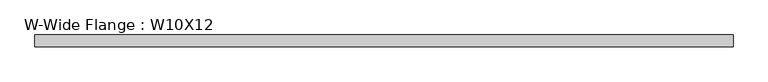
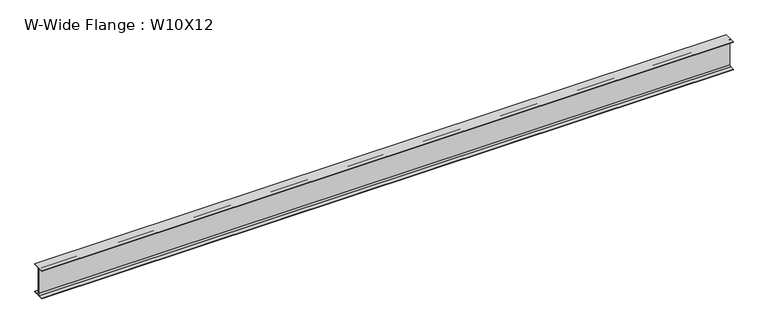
"""IFC4 building model written with IfcOpenShell, lengths in millimetres: beam geometry, W-Wide Flange : W10X12."""

from ifc_helpers import new_model, si_unit, point, frame, frame_2d, origin, place, context, project, spatial, polyline, circle_curve, trimmed, segment, composite_curve, outline, extrude, source, transform, mapped, element, save


def w_wide_flange_w10x12_c24cad00(model_context):
    return source(origin(), model_context, "Body", "SweptSolid", [
        extrude(outline(composite_curve([segment(polyline([(50.292, -120.015), (50.292, -125.349), (-50.292, -125.349), (-50.292, -120.015), (-16.129, -120.015)]), True, "CONTINUOUS"), segment(trimmed(circle_curve(frame_2d((-16.129, -106.299)), 13.716), [point((-16.129, -120.015))], [point((-2.413, -106.299))], True, "CARTESIAN"), True, "CONTINUOUS"), segment(polyline([(-2.413, -106.299), (-2.413, 106.299)]), True, "CONTINUOUS"), segment(trimmed(circle_curve(frame_2d((-16.129, 106.299)), 13.716), [point((-2.413, 106.299))], [point((-16.129, 120.015))], True, "CARTESIAN"), True, "CONTINUOUS"), segment(polyline([(-16.129, 120.015), (-50.292, 120.015), (-50.292, 125.349), (50.292, 125.349), (50.292, 120.015), (16.129, 120.015)]), True, "CONTINUOUS"), segment(trimmed(circle_curve(frame_2d((16.129, 106.299)), 13.716), [point((16.129, 120.015))], [point((2.413, 106.299))], True, "CARTESIAN"), True, "CONTINUOUS"), segment(polyline([(2.413, 106.299), (2.413, -106.299)]), True, "CONTINUOUS"), segment(trimmed(circle_curve(frame_2d((16.129, -106.299)), 13.716), [point((2.413, -106.299))], [point((16.129, -120.015))], True, "CARTESIAN"), True, "CONTINUOUS"), segment(polyline([(16.129, -120.015), (50.292, -120.015)]), True, "CONTINUOUS")], self_intersect=False)), frame((-2786.85625, 0.0, 0.0), z_axis=(1.0, 0.0, 0.0), x_axis=(0.0, 1.0, 0.0)), (0.0, 0.0, 1.0), 5821.3625),
    ])


if __name__ == "__main__":
    model = new_model("IFC4")
    model_context = context("Model", 3, world=origin())
    ifc_project = project(units=[si_unit("LENGTHUNIT", "METRE", prefix="MILLI")], contexts=[model_context])
    site = spatial("IfcSite", under=ifc_project)
    building = spatial("IfcBuilding", under=site)
    placement = place(None, origin())
    w_wide_flange_w10x12_shape = w_wide_flange_w10x12_c24cad00(model_context)
    element("IfcBeam", 1, ObjectType="W-Wide Flange : W10X12", at=placement, inside=building, context=model_context, shape_type="MappedRepresentation", body=[
        mapped(w_wide_flange_w10x12_shape, transform((0.0, 0.0, 0.0), x_axis=(1.0, 0.0, 0.0), y_axis=(0.0, 1.0, 0.0), z_axis=(0.0, 0.0, 1.0))),
    ])
    save(model, "model.ifc")
